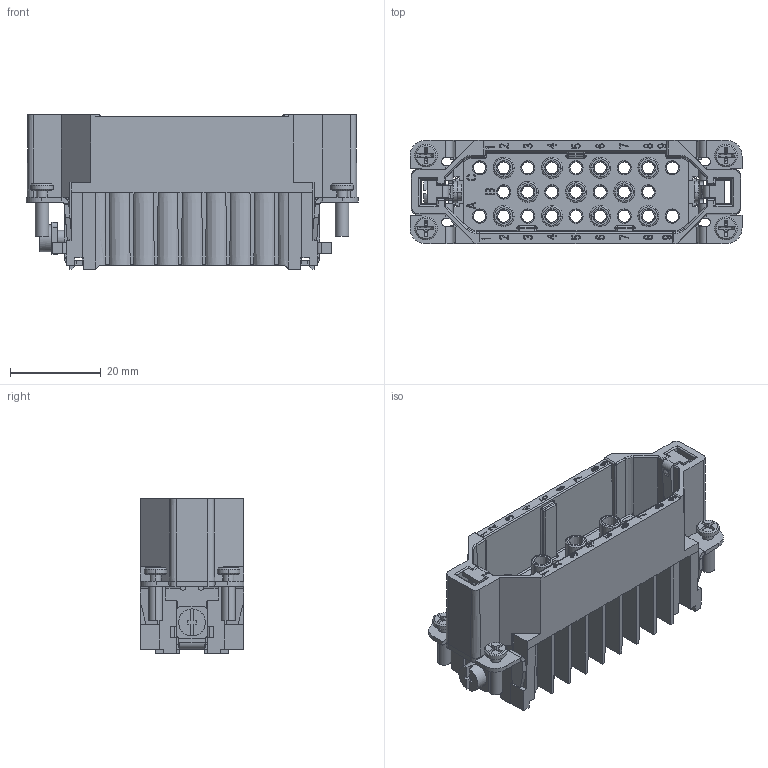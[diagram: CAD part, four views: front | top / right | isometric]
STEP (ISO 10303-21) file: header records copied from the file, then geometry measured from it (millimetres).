
FILE_DESCRIPTION (( 'STEP AP203' ), '1' );
FILE_NAME ('HD-025-M.STEP', '2022-05-07T03:21:42', ( '' ), ( '' ), 'SwSTEP 2.0', 'SolidWorks 2016', '' );
FILE_SCHEMA (( 'CONFIG_CONTROL_DESIGN' ));
Products named in the file (1): HD-025-M
Bounding box: 73 x 22.8 x 34 mm (x, y, z)
Volume: 21043.1 mm3; surface area: 21454.8 mm2
Topology: 1 solids, 1 shells, 2618 faces, 7285 edges, 4781 vertices
Faces by surface type: plane 2152, cylinder 268, cone 106, bspline 92
Entity records: 86426 total; most frequent: CARTESIAN_POINT 19409, ORIENTED_EDGE 14552, DIRECTION 12803, EDGE_CURVE 7276, VECTOR 6283, LINE 6283, VERTEX_POINT 4781, AXIS2_PLACEMENT_3D 3260
